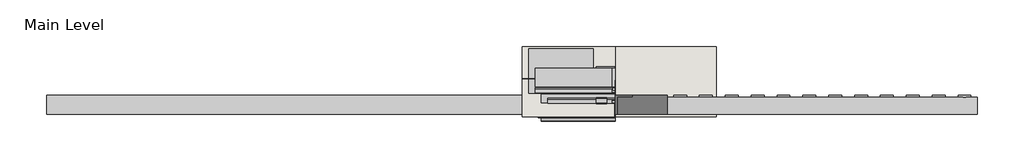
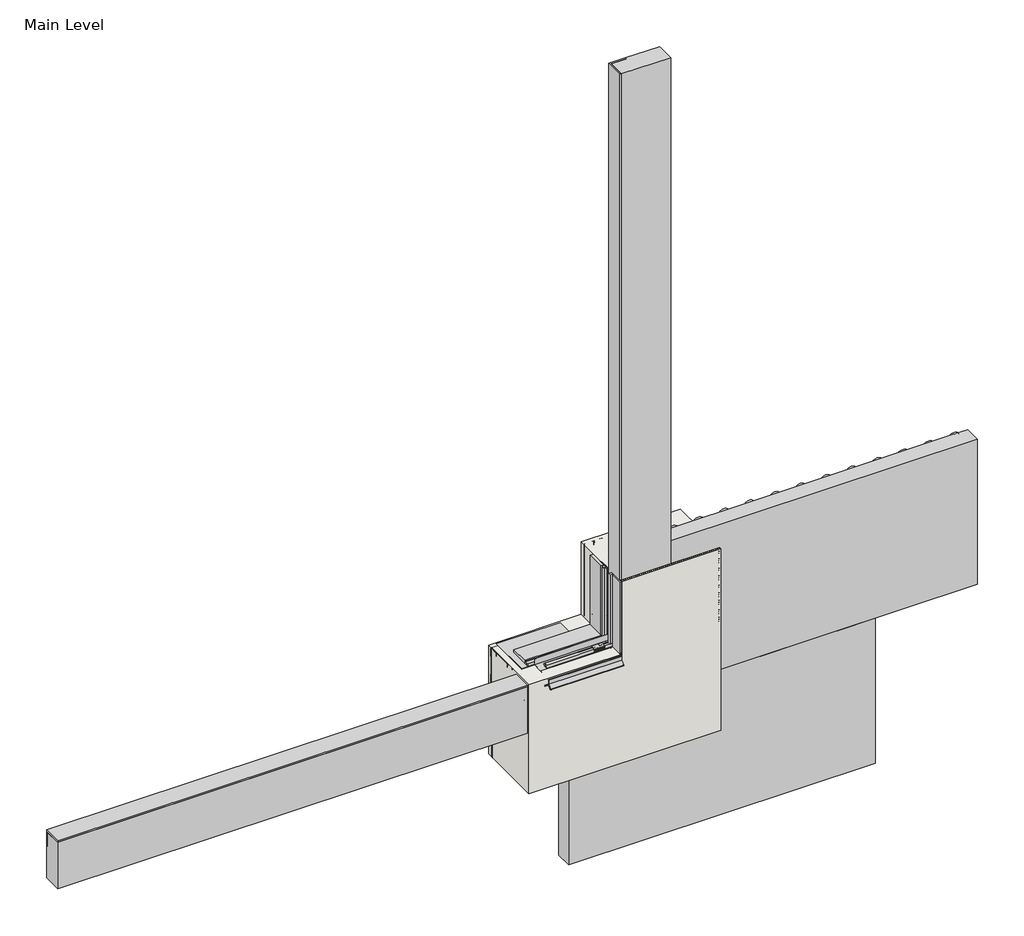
# One storey, incomplete: 26 proxies, 1 wall.
"""IFC4 building model written with IfcOpenShell, lengths in millimetres."""

from ifc_helpers import new_model, si_unit, frame, origin, place, context, project, spatial, polyline, outline, extrude, transform, mapped, element, save
from components import generic_models_31547c53, generic_models_d28646c3, generic_models_6d26ea6e, generic_models_db5184ed, generic_models_008a3d59, generic_models_12b73edd, generic_models_724a5e66, generic_models_bb7dc723, proxy_4c3b85e5, proxy_c7e97176, proxy_46de1dcf, finish_coat_filler_finish_coat_filler_9b34bf11, masonry_sill_masonry_sill_39c7edd1, masonry_sill1_masonry_sill_69ac0e3b, masonry_sill3_masonry_sill_d59b7927, masonry_sill4_masonry_sill_f52e6068, proxy_a3fd9b0b, proxy_3a0ad636, proxy_0073da47, proxy_6f3203ff, window_header_window_header_abd4ef46, wood_blocking_5320d369

model = new_model("IFC4")

# Units and contexts
model_context = context("Model", 3, world=origin())
ifc_project = project(units=[si_unit("LENGTHUNIT", "METRE", prefix="MILLI")], contexts=[model_context])

# Site, building, storey
site = spatial("IfcSite", under=ifc_project)
building = spatial("IfcBuilding", under=site)
storey = spatial("IfcBuildingStorey", under=building, Name="Main Level", Elevation=0.0)

# Proxies
placement = place(None, origin())
generic_models_shape = generic_models_31547c53(model_context)
element("IfcBuildingElementProxy", 1, Name="Durabond Generic Model Sealant Vent : Durabond Generic Model Sealant Vent", ObjectType="Durabond Generic Model Sealant Vent : Durabond Generic Model Sealant Vent", at=placement, inside=storey, context=model_context, shape_type="MappedRepresentation", body=[
    mapped(generic_models_shape, transform((26800.7195523, 590.8476543, 464.646745), x_axis=(1.0, 0.0, 0.0), y_axis=(0.0, 0.08715574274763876, -0.9961946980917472), z_axis=(0.0, 0.9961946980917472, 0.08715574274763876))),
])
generic_models_2_shape = generic_models_d28646c3(model_context)
element("IfcBuildingElementProxy", 2, Name="CRAi Generic Model Line Based Drip Deflector : CRAi Generic Model Line Based Drip Deflector", ObjectType="CRAi Generic Model Line Based Drip Deflector : CRAi Generic Model Line Based Drip Deflector", at=placement, inside=storey, context=model_context, shape_type="MappedRepresentation", body=[
    mapped(generic_models_2_shape, transform((26855.8851773, 535.1829375, 451.8088934), x_axis=(0.0, 0.996194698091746, 0.08715574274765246), y_axis=(-1.0, 0.0, 0.0), z_axis=(0.0, -0.0871557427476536, 0.996194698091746))),
])
generic_models_3_shape = generic_models_6d26ea6e(model_context)
generic_models_4_shape = generic_models_db5184ed(model_context)
generic_models_5_shape = generic_models_008a3d59(model_context)
generic_models_6_shape = generic_models_12b73edd(model_context)
element("IfcBuildingElementProxy", 3, Name="CRAi Generic Model Mesh Piece Face Based : CRAi Generic Model Mesh Piece Face Based", ObjectType="CRAi Generic Model Mesh Piece Face Based : CRAi Generic Model Mesh Piece Face Based", at=placement, inside=storey, context=model_context, shape_type="MappedRepresentation", body=[
    mapped(generic_models_3_shape, transform((27054.3226773, 541.9066297, 606.6633203), x_axis=(-1.0, 0.0, 0.0), y_axis=(0.0, 0.0, -1.0), z_axis=(0.0, -1.0, 0.0))),
    mapped(generic_models_4_shape, transform((27054.3226773, 541.9066297, 606.6633203), x_axis=(-1.0, 0.0, 0.0), y_axis=(0.0, 0.0, -1.0), z_axis=(0.0, -1.0, 0.0))),
    mapped(generic_models_5_shape, transform((27054.3226773, 541.9066297, 606.6633203), x_axis=(-1.0, 0.0, 0.0), y_axis=(0.0, 0.0, -1.0), z_axis=(0.0, -1.0, 0.0))),
    mapped(generic_models_6_shape, transform((27054.3226773, 541.9066297, 606.6633203), x_axis=(-1.0, 0.0, 0.0), y_axis=(0.0, 0.0, -1.0), z_axis=(0.0, -1.0, 0.0))),
])
generic_models_7_shape = generic_models_724a5e66(model_context)
element("IfcBuildingElementProxy", 4, Name="Durabond Generic Model Insulation Adhesive Flat : Durabond Generic Model Insulation Adhesive Flat", ObjectType="Durabond Generic Model Insulation Adhesive Flat : Durabond Generic Model Insulation Adhesive Flat", at=placement, inside=storey, context=model_context, shape_type="MappedRepresentation", body=[
    mapped(generic_models_7_shape, transform((26703.4851773, 627.6316297, 381.0), x_axis=(1.0, 0.0, 0.0), y_axis=(0.0, -1.0, 0.0), z_axis=(0.0, 0.0, -1.0))),
])
element("IfcBuildingElementProxy", 5, Name="Durabond Generic Model Insulation Adhesive Flat : Durabond Generic Model Insulation Adhesive Flat", ObjectType="Durabond Generic Model Insulation Adhesive Flat : Durabond Generic Model Insulation Adhesive Flat", at=placement, inside=storey, context=model_context, shape_type="MappedRepresentation", body=[
    mapped(generic_models_7_shape, transform((26805.0851773, 627.6316297, 381.0), x_axis=(1.0, 0.0, 0.0), y_axis=(0.0, -1.0, 0.0), z_axis=(0.0, 0.0, -1.0))),
])
generic_models_8_shape = generic_models_bb7dc723(model_context)
element("IfcBuildingElementProxy", 6, Name="Durabond Generic Model Insulation Adhesive Flat : Durabond Generic Model Insulation Adhesive Flat", ObjectType="Durabond Generic Model Insulation Adhesive Flat : Durabond Generic Model Insulation Adhesive Flat", at=placement, inside=storey, context=model_context, shape_type="MappedRepresentation", body=[
    mapped(generic_models_8_shape, transform((26906.6851773, 627.6316297, 762.0), x_axis=(1.0, 0.0, 0.0), y_axis=(0.0, -1.0, 0.0), z_axis=(0.0, 0.0, -1.0))),
])
element("IfcBuildingElementProxy", 7, Name="Durabond Generic Model Insulation Adhesive Flat : Durabond Generic Model Insulation Adhesive Flat", ObjectType="Durabond Generic Model Insulation Adhesive Flat : Durabond Generic Model Insulation Adhesive Flat", at=placement, inside=storey, context=model_context, shape_type="MappedRepresentation", body=[
    mapped(generic_models_8_shape, transform((27008.2851773, 627.6316297, 762.0), x_axis=(1.0, 0.0, 0.0), y_axis=(0.0, -1.0, 0.0), z_axis=(0.0, 0.0, -1.0))),
])
element("IfcBuildingElementProxy", 8, Name="Durabond Generic Model Insulation Adhesive Flat : Durabond Generic Model Insulation Adhesive Flat", ObjectType="Durabond Generic Model Insulation Adhesive Flat : Durabond Generic Model Insulation Adhesive Flat", at=placement, inside=storey, context=model_context, shape_type="MappedRepresentation", body=[
    mapped(generic_models_8_shape, transform((27109.8851773, 627.6316297, 762.0), x_axis=(1.0, 0.0, 0.0), y_axis=(0.0, -1.0, 0.0), z_axis=(0.0, 0.0, -1.0))),
])
element("IfcBuildingElementProxy", 9, Name="Durabond Generic Model Insulation Adhesive Flat : Durabond Generic Model Insulation Adhesive Flat", ObjectType="Durabond Generic Model Insulation Adhesive Flat : Durabond Generic Model Insulation Adhesive Flat", at=placement, inside=storey, context=model_context, shape_type="MappedRepresentation", body=[
    mapped(generic_models_8_shape, transform((27211.4851773, 627.6316297, 762.0), x_axis=(1.0, 0.0, 0.0), y_axis=(0.0, -1.0, 0.0), z_axis=(0.0, 0.0, -1.0))),
])
proxy_shape = proxy_4c3b85e5(model_context)
element("IfcBuildingElementProxy", 10, Name="Durabond Generic Model Quantum Select 5-0 Boundary Board : 3\"", ObjectType="Durabond Generic Model Quantum Select 5-0 Boundary Board : 3\"", at=placement, inside=storey, context=model_context, shape_type="MappedRepresentation", body=[
    mapped(proxy_shape, transform((25839.8851773, 624.4566297, 349.375778), x_axis=(-1.0, 0.0, 0.0), y_axis=(0.0, 0.0, -1.0), z_axis=(0.0, -1.0, 0.0))),
])
proxy_2_shape = proxy_c7e97176(model_context)
element("IfcBuildingElementProxy", 11, Name="Durabond Generic Model Quantum Select 5-0 Boundary Board : 3\"", ObjectType="Durabond Generic Model Quantum Select 5-0 Boundary Board : 3\"", at=placement, inside=storey, context=model_context, shape_type="MappedRepresentation", body=[
    mapped(proxy_2_shape, transform((26957.4851773, 624.4566297, 1670.175778), x_axis=(0.0, 0.0, 1.0), y_axis=(-1.0, 0.0, 0.0), z_axis=(0.0, -1.0, 0.0))),
])
proxy_3_shape = proxy_46de1dcf(model_context)
element("IfcBuildingElementProxy", 12, Name="Durabond Generic Model Quantum Select 5-0 Insulation Board : 3\"", ObjectType="Durabond Generic Model Quantum Select 5-0 Insulation Board : 3\"", at=placement, inside=storey, context=model_context, shape_type="MappedRepresentation", body=[
    mapped(proxy_3_shape, transform((27262.2851773, 624.4566297, -57.024222), x_axis=(1.0, 0.0, 0.0), y_axis=(0.0, 0.0, 1.0), z_axis=(0.0, -1.0, 0.0))),
])
element("IfcBuildingElementProxy", 13, Name="Durabond Generic Model Quantum Select 5-0 Insulation Board : 3\"", ObjectType="Durabond Generic Model Quantum Select 5-0 Insulation Board : 3\"", at=placement, inside=storey, context=model_context, shape_type="MappedRepresentation", body=[
    mapped(proxy_3_shape, transform((27668.6851773, 624.4566297, 552.575778), x_axis=(1.0, 0.0, 0.0), y_axis=(0.0, 0.0, 1.0), z_axis=(0.0, -1.0, 0.0))),
])
finish_coat_filler_finish_coat_filler_shape = finish_coat_filler_finish_coat_filler_9b34bf11(model_context)
element("IfcBuildingElementProxy", 14, Name="Finish Coat Filler : Finish Coat Filler", ObjectType="Finish Coat Filler : Finish Coat Filler", at=placement, inside=storey, context=model_context, shape_type="MappedRepresentation", body=[
    mapped(finish_coat_filler_finish_coat_filler_shape, transform((0.0, 0.0, -152.4), x_axis=(1.0, 0.0, 0.0), y_axis=(0.0, 1.0, 0.0), z_axis=(0.0, 0.0, 1.0))),
])
masonry_sill_masonry_sill_shape = masonry_sill_masonry_sill_39c7edd1(model_context)
element("IfcBuildingElementProxy", 15, Name="Masonry Sill : Masonry Sill", ObjectType="Masonry Sill : Masonry Sill", at=placement, inside=storey, context=model_context, shape_type="MappedRepresentation", body=[
    mapped(masonry_sill_masonry_sill_shape, transform((0.0, 0.0, 0.0), x_axis=(1.0, 0.0, 0.0), y_axis=(0.0, 1.0, 0.0), z_axis=(0.0, 0.0, 1.0))),
])
masonry_sill1_masonry_sill_shape = masonry_sill1_masonry_sill_69ac0e3b(model_context)
element("IfcBuildingElementProxy", 16, Name="Masonry Sill1 : Masonry Sill", ObjectType="Masonry Sill1 : Masonry Sill", at=placement, inside=storey, context=model_context, shape_type="MappedRepresentation", body=[
    mapped(masonry_sill1_masonry_sill_shape, transform((0.0, 0.0, -152.4), x_axis=(1.0, 0.0, 0.0), y_axis=(0.0, 1.0, 0.0), z_axis=(0.0, 0.0, 1.0))),
])
masonry_sill3_masonry_sill_shape = masonry_sill3_masonry_sill_d59b7927(model_context)
element("IfcBuildingElementProxy", 17, Name="Masonry Sill3 : Masonry Sill", ObjectType="Masonry Sill3 : Masonry Sill", at=placement, inside=storey, context=model_context, shape_type="MappedRepresentation", body=[
    mapped(masonry_sill3_masonry_sill_shape, transform((0.0, 0.0, 0.0), x_axis=(1.0, 0.0, 0.0), y_axis=(0.0, 1.0, 0.0), z_axis=(0.0, 0.0, 1.0))),
])
masonry_sill4_masonry_sill_shape = masonry_sill4_masonry_sill_f52e6068(model_context)
element("IfcBuildingElementProxy", 18, Name="Masonry Sill4 : Masonry Sill", ObjectType="Masonry Sill4 : Masonry Sill", at=placement, inside=storey, context=model_context, shape_type="MappedRepresentation", body=[
    mapped(masonry_sill4_masonry_sill_shape, transform((0.0, 0.0, -101.6), x_axis=(1.0, 0.0, 0.0), y_axis=(0.0, 1.0, 0.0), z_axis=(0.0, 0.0, 1.0))),
])
proxy_4_shape = proxy_a3fd9b0b(model_context)
element("IfcBuildingElementProxy", 19, Name="CRAi Generic Model Metal Stud : Metal Framing Stud - 1\" x 3.5\"", ObjectType="CRAi Generic Model Metal Stud : Metal Framing Stud - 1\" x 3.5\"", at=placement, inside=storey, context=model_context, shape_type="MappedRepresentation", body=[
    mapped(proxy_4_shape, transform((26876.5226773, 726.0566297, 0.0), x_axis=(1.0, 0.0, 0.0), y_axis=(0.0, 1.0, 0.0), z_axis=(0.0, 0.0, 1.0))),
])
proxy_5_shape = proxy_3a0ad636(model_context)
element("IfcBuildingElementProxy", 20, Name="CRAi Generic Model Metal Stud : Metal Framing Stud - 1\" x 3.5\"", ObjectType="CRAi Generic Model Metal Stud : Metal Framing Stud - 1\" x 3.5\"", at=placement, inside=storey, context=model_context, shape_type="MappedRepresentation", body=[
    mapped(proxy_5_shape, transform((26876.5226773, 726.0566297, 0.0), x_axis=(1.0, 0.0, 0.0), y_axis=(0.0, 1.0, 0.0), z_axis=(0.0, 0.0, 1.0))),
])
proxy_6_shape = proxy_0073da47(model_context)
element("IfcBuildingElementProxy", 21, Name="CRAi Generic Model Metal Stud : Metal Framing Stud - 1\" x 3.5\"", ObjectType="CRAi Generic Model Metal Stud : Metal Framing Stud - 1\" x 3.5\"", at=placement, inside=storey, context=model_context, shape_type="MappedRepresentation", body=[
    mapped(proxy_6_shape, transform((26914.6226773, 726.0566297, 0.0), x_axis=(-1.0, 0.0, 0.0), y_axis=(0.0, -1.0, 0.0), z_axis=(0.0, 0.0, 1.0))),
])
proxy_7_shape = proxy_6f3203ff(model_context)
element("IfcBuildingElementProxy", 22, Name="CRAi Generic Model Metal Stud : Metal Framing Stud - 1\" x 3.5\"", ObjectType="CRAi Generic Model Metal Stud : Metal Framing Stud - 1\" x 3.5\"", at=placement, inside=storey, context=model_context, shape_type="MappedRepresentation", body=[
    mapped(proxy_7_shape, transform((26508.2226773, 726.0566297, 0.0), x_axis=(-1.0, 0.0, 0.0), y_axis=(0.0, -1.0, 0.0), z_axis=(0.0, 0.0, 1.0))),
])
window_header_window_header_shape = window_header_window_header_abd4ef46(model_context)
element("IfcBuildingElementProxy", 23, Name="Window Header : Window Header", ObjectType="Window Header : Window Header", at=placement, inside=storey, context=model_context, shape_type="MappedRepresentation", body=[
    mapped(window_header_window_header_shape, transform((0.0, 0.0, 0.0), x_axis=(1.0, 0.0, 0.0), y_axis=(0.0, 1.0, 0.0), z_axis=(0.0, 0.0, 1.0))),
])
wood_blocking_shape = wood_blocking_5320d369(model_context)
element("IfcBuildingElementProxy", 24, Name="CRAi Generic Model Line Based Metal Framing Track : Wood Blocking", ObjectType="CRAi Generic Model Line Based Metal Framing Track : Wood Blocking", at=placement, inside=storey, context=model_context, shape_type="MappedRepresentation", body=[
    mapped(wood_blocking_shape, transform((26489.1726773, 649.8566297, 304.8), x_axis=(1.0, 0.0, 0.0), y_axis=(0.0, 1.0, 0.0), z_axis=(0.0, 0.0, 1.0))),
])
element("IfcBuildingElementProxy", 25, Name="CRAi Generic Model Line Based Metal Framing Track : Wood Blocking", ObjectType="CRAi Generic Model Line Based Metal Framing Track : Wood Blocking", at=placement, inside=storey, context=model_context, shape_type="MappedRepresentation", body=[
    mapped(wood_blocking_shape, transform((26489.1726773, 802.257101, 457.2), x_axis=(1.0, 0.0, 0.0), y_axis=(0.0, -1.0, 0.0), z_axis=(0.0, 0.0, -1.0))),
])
element("IfcBuildingElementProxy", 26, Name="CRAi Generic Model Line Based Metal Framing Track : Wood Blocking", ObjectType="CRAi Generic Model Line Based Metal Framing Track : Wood Blocking", at=placement, inside=storey, context=model_context, shape_type="MappedRepresentation", body=[
    mapped(wood_blocking_shape, transform((26489.1726773, 802.2566297, 304.8), x_axis=(1.0, 0.0, 0.0), y_axis=(0.0, -1.0, 0.0), z_axis=(0.0, 0.0, -1.0))),
])

# Wall
element("IfcWall", 27, ObjectType="189mm (7.5”) EIFS Field Applied on Mtl. Stud Layer - 50mm Grooved Insulation Board Metal Stud Wall", at=placement, inside=storey, context=model_context, shape_type="SweptSolid", body=[
    extrude(outline(polyline([(0.0, 26489.1726773), (0.0, 27251.1726773), (762.0, 27251.1726773), (762.0, 26857.4726773), (457.2, 26857.4726773), (457.2, 26489.1726773), (0.0, 26489.1726773)])), frame((0.0, 538.7316297, 0.0), z_axis=(0.0, 1.0, 0.0), x_axis=(0.0, 0.0, 1.0)), (0.0, 0.0, 1.0), 276.225),
])

save(model, "model.ifc")
